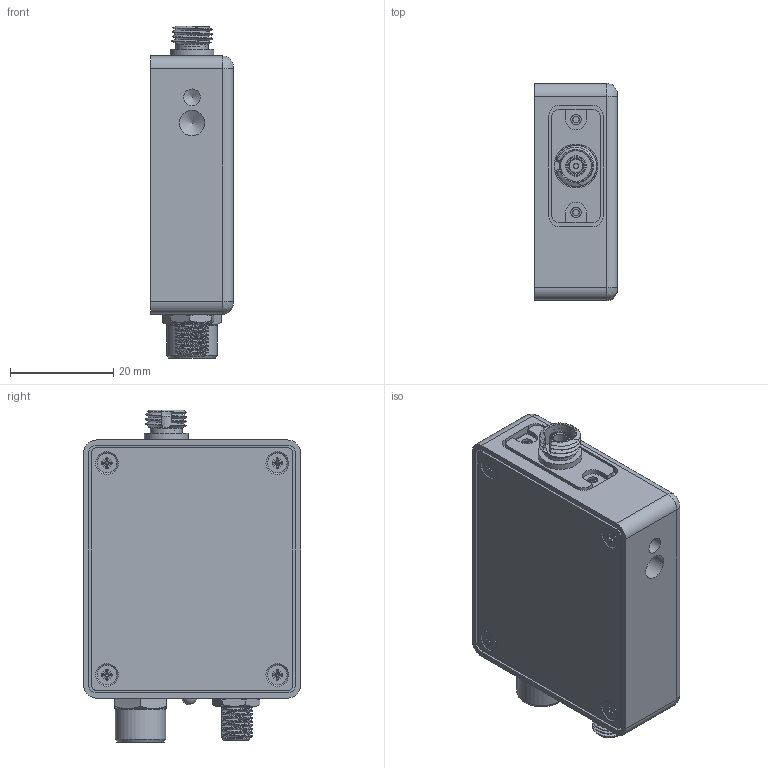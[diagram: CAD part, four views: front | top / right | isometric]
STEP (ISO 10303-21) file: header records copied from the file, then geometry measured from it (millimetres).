
FILE_DESCRIPTION(/* description */ (''),/* implementation_level */ '2;1');
FILE_NAME(/* name */ 'Y:\e.kushnir\- От Владлена -\ODA2-007bfc.stp',/* time_stamp */ '2021-04-08T18:24:05+03:00',/* author */ ('svlad'),/* organization */ (''),/* preprocessor_version */ 'ST-DEVELOPER v17',/* originating_system */ 'Autodesk Inventor 2019',/* authorisation */ '');
FILE_SCHEMA (('AUTOMOTIVE_DESIGN { 1 0 10303 214 3 1 1 }'));
Products named in the file (1): ODA2-X_Shrinkwrap 007bfc
Bounding box: 16 x 42.05 x 64.3 mm (x, y, z)
Volume: 33723.2 mm3; surface area: 9699.7 mm2
Topology: 1 solids, 1 shells, 1373 faces, 3733 edges, 2463 vertices
Faces by surface type: plane 763, bspline 339, cylinder 159, cone 84, torus 24, sphere 4
Full cylindrical faces by diameter (mm): 0.8 x4, 1 x1, 1.221 x2, 2 x2, 2.6 x1, 2.95 x1, 3 x1, 3.2 x1, 3.242 x1, 3.8 x4, 4 x1, 4.917 x1, 5.33 x14, 5.648 x1, 6 x1, 6.2 x1, 7 x3, 7.4 x1, 8.1 x2, 8.5 x2, 9 x1, 9.7 x1, 10.2 x1, 11 x1, 12 x1, 12.5 x1
Entity records: 67815 total; most frequent: CARTESIAN_POINT 34309, ORIENTED_EDGE 7446, DIRECTION 5258, EDGE_CURVE 3723, VERTEX_POINT 2461, LINE 2144, VECTOR 2144, AXIS2_PLACEMENT_3D 1557
